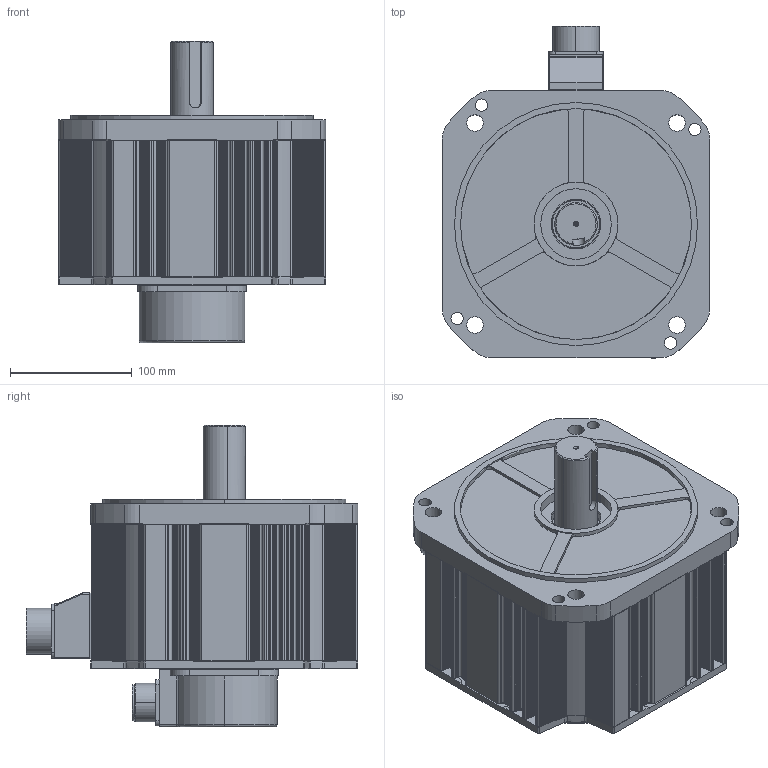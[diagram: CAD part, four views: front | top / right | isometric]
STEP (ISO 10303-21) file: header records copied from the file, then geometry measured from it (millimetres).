
FILE_DESCRIPTION (( 'STEP AP203' ), '1' );
FILE_NAME ('KANF-35G¡à9B2.STEP', '2026-09-12T00:52:13', ( '' ), ( '' ), 'SwSTEP 2.0', 'SolidWorks 2023', '' );
FILE_SCHEMA (( 'CONFIG_CONTROL_DESIGN' ));
Length unit declared in the file: millimetre
Products named in the file (11): 10050907 RUBBER SEAL_MS22 or MS24; 1005053102 ENCODER COVER; □220 FLANGE; Ø35-KEY10X50; □220-115.0mm(3.5kW,BR); MS3102A 20-29P; 10050908 CONNECTOR BOX_MS22 or MS24; KANF-35G□9B2; MS3102A 24-11P_표준; □220 BRACKET_BR; 10050532 GASKET_미돌출형
Assembly tree (10 placements, depth 2):
  KANF-35G□9B2
    □220 FLANGE
    □220 BRACKET_BR
    10050532 GASKET_미돌출형
    1005053102 ENCODER COVER
    MS3102A 20-29P
    10050907 RUBBER SEAL_MS22 or MS24
    10050908 CONNECTOR BOX_MS22 or MS24
    MS3102A 24-11P_표준
    Ø35-KEY10X50
    □220-115.0mm(3.5kW,BR)
Bounding box: 220 x 273.12 x 248.5 mm (x, y, z)
Volume: 1705711.3 mm3; surface area: 578107.1 mm2
Topology: 10 solids, 10 shells, 2020 faces, 5772 edges, 3812 vertices
Faces by surface type: plane 1184, cylinder 732, cone 54, bspline 35, torus 13, sphere 2
Entity records: 68895 total; most frequent: CARTESIAN_POINT 13760, ORIENTED_EDGE 11492, DIRECTION 11204, EDGE_CURVE 5746, LINE 3982, VECTOR 3982, VERTEX_POINT 3812, AXIS2_PLACEMENT_3D 3611
